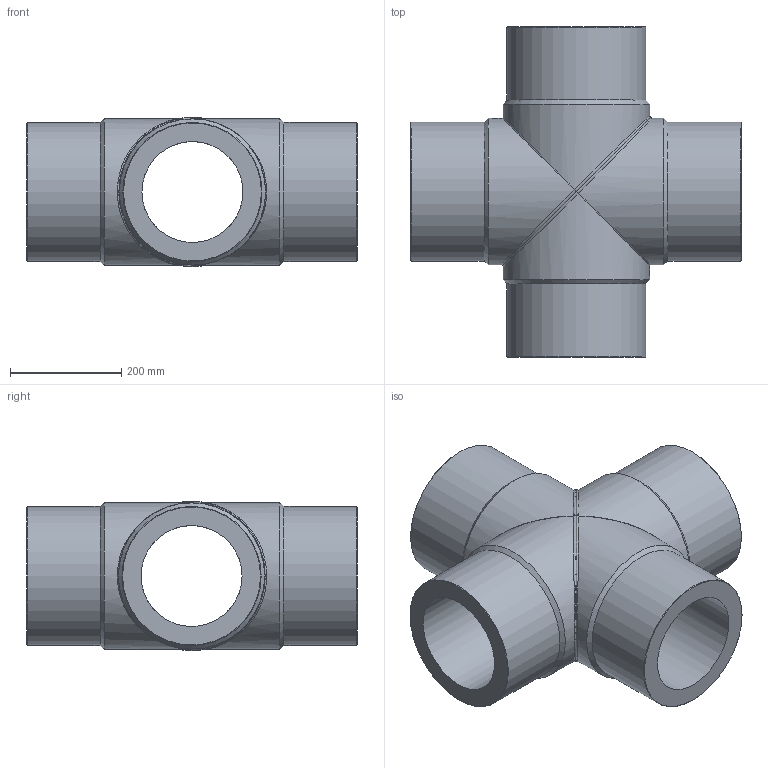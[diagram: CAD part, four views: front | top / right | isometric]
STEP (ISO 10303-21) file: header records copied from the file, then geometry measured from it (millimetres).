
FILE_DESCRIPTION(/* description */ ('Unknown'),/* implementation_level */ '2;1');
FILE_NAME(/* name */ 'CRP250H',/* time_stamp */ '2022-07-08T14:56:40+02:00',/* author */ ('Unknown'),/* organization */ ('Unknown'),/* preprocessor_version */ 'ST-DEVELOPER v18.102',/* originating_system */ 'Solid Edge',/* authorisation */ 'Unknown');
FILE_SCHEMA (('AUTOMOTIVE_DESIGN {1 0 10303 214 3 1 1}'));
Length unit declared in the file: millimetre
Products named in the file (3): CRP250H; CRP250H_mir
Assembly tree (2 placements, depth 2):
  CRP250H
    CRP250H
    CRP250H_mir
Bounding box: 594.5 x 594.5 x 267.99 mm (x, y, z)
Volume: 22817330.5 mm3; surface area: 1411307.9 mm2
Topology: 2 solids, 2 shells, 32 faces, 86 edges, 56 vertices
Faces by surface type: cylinder 12, cone 8, plane 6, bspline 6
Full cylindrical faces by diameter (mm): 181.6 x4, 250 x4, 263 x4
Entity records: 3593 total; most frequent: CARTESIAN_POINT 2885, DIRECTION 126, ORIENTED_EDGE 112, AXIS2_PLACEMENT_3D 63, EDGE_LOOP 58, FACE_BOUND 58, EDGE_CURVE 56, VERTEX_POINT 46
